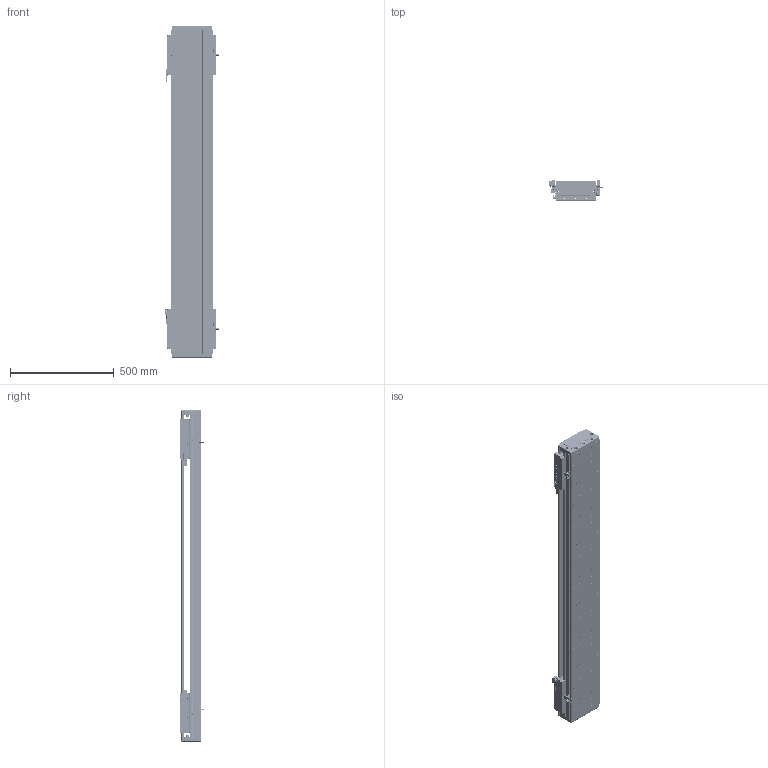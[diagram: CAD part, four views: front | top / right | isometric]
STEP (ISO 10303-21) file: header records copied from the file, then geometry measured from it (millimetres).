
FILE_DESCRIPTION (( 'STEP AP203' ), '1' );
FILE_NAME ('DA-C195-2-C2-T1100-C010-0.2 眻盄萇儂.STEP', '2025-08-14T02:02:44', ( '' ), ( '' ), 'SwSTEP 2.0', 'SolidWorks 2019', '' );
FILE_SCHEMA (( 'CONFIG_CONTROL_DESIGN' ));
Length unit declared in the file: millimetre
Products named in the file (16): CU195-C2賑輸-俋楷; PM-T45ㄗ侂狟ㄘ; DA-C195-2-C2-T1100-C010-0.2 眻盄萇儂; 66156-0001-005-00 光电感应片(默认); IU-CU195-L-00 菁釱(L1560); DKW-KGZ-ZJ-00 中间光电开关支架; DKW-GYP-ZJ-00 笢潔嫖萇覜茼え; 66156-0001-003-00 裔啣; DA195-DG-H-00  端盖（压铸镂空版）; MS200 棠掑喜S315-T240; PM-Y65嫖萇羲壽郪璃; DA95-HXJ-00 遣喳砎蝶; DKW168-HXJ-ZJ-00 笢潔滅袉砎蝶; LMT黍杅芛; 葩璃 DA95-GT-T-00; IU-CU195-L 菁釱絳寢
Assembly tree (28 placements, depth 3):
  DA-C195-2-C2-T1100-C010-0.2 眻盄萇儂
    IU-CU195-L 菁釱絳寢
      IU-CU195-L-00 菁釱(L1560)
      葩璃 DA95-GT-T-00  x4
    LMT黍杅芛  x2
    MS200 棠掑喜S315-T240
    PM-T45ㄗ侂狟ㄘ  x4
    66156-0001-005-00 光电感应片(默认)  x2
    DA195-DG-H-00  端盖（压铸镂空版）  x2
    DA95-HXJ-00 遣喳砎蝶  x4
    PM-Y65嫖萇羲壽郪璃
    66156-0001-003-00 裔啣
    DKW168-HXJ-ZJ-00 笢潔滅袉砎蝶
    DKW-GYP-ZJ-00 笢潔嫖萇覜茼え
    DKW-KGZ-ZJ-00 中间光电开关支架
    CU195-C2賑輸-俋楷  x2
Bounding box: 258.2 x 115.6 x 1600 mm (x, y, z)
Volume: 11950194.6 mm3; surface area: 3352561.4 mm2
Topology: 106 solids, 242 shells, 8036 faces, 20376 edges, 12419 vertices
Faces by surface type: cylinder 3354, plane 2866, cone 946, bspline 718, torus 80, sphere 72
Entity records: 164113 total; most frequent: CARTESIAN_POINT 50844, ORIENTED_EDGE 23754, DIRECTION 22442, EDGE_CURVE 11877, AXIS2_PLACEMENT_3D 8207, VERTEX_POINT 7534, VECTOR 6028, LINE 6028
